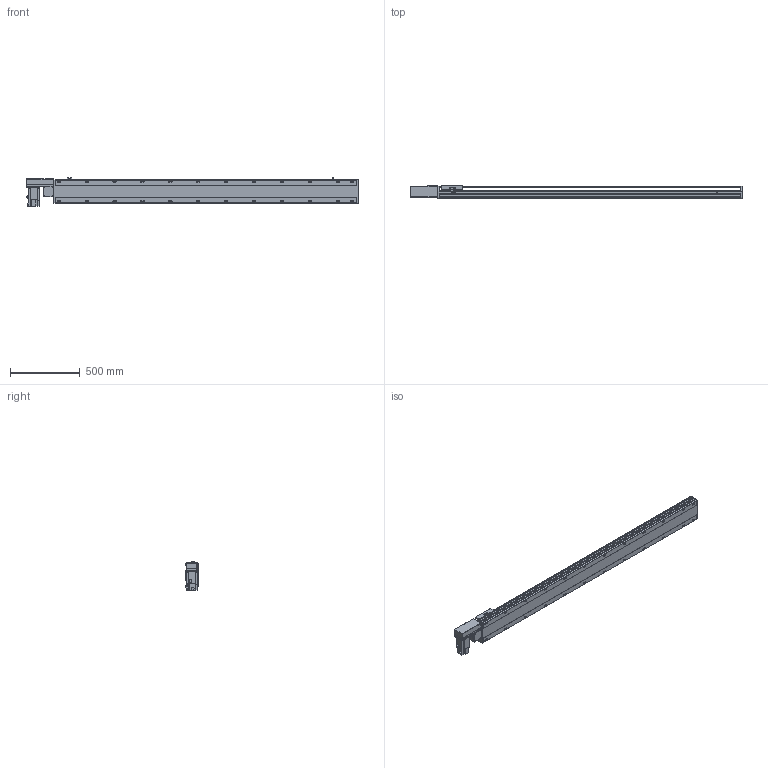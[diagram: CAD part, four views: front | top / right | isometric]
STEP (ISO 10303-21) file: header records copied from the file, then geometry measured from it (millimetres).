
FILE_DESCRIPTION(/* description */ ('STEP AP214'),/* implementation_level */ '2;1');
FILE_NAME(/* name */ 'PBS170-P40-S1900-R-T75-C1-N(0)',/* time_stamp */ '2022-06-07T09:31:19+02:00',/* author */ ('License CC BY-ND 4.0'),/* organization */ ('CADENAS'),/* preprocessor_version */ 'ST-DEVELOPER v18.102',/* originating_system */ 'PARTsolutions',/* authorisation */ ' ');
FILE_SCHEMA (('AUTOMOTIVE_DESIGN {1 0 10303 214 3 1 1}'));
Length unit declared in the file: millimetre
Products named in the file (7): PBS170-P40-S1900-R-T75-C1-N(0); PBS170_sensor; PBS170_plant; PBS170_sliser; T75-p1; PBS170T-R_motors; PBS170-S1900()_body
Assembly tree (8 placements, depth 2):
  PBS170-P40-S1900-R-T75-C1-N(0)
    PBS170_sensor  x3
    PBS170_plant
    PBS170_sliser
    T75-p1
    PBS170T-R_motors
    PBS170-S1900()_body
Bounding box: 2378 x 97 x 205.3 mm (x, y, z)
Volume: 17402112.5 mm3; surface area: 2214293.6 mm2
Topology: 8 solids, 8 shells, 1146 faces, 3035 edges, 1978 vertices
Faces by surface type: plane 711, cylinder 371, cone 54, sphere 8, torus 2
Full cylindrical faces by diameter (mm): 3.242 x4, 4 x2, 4.4 x4, 4.5 x6, 4.917 x4, 6 x9, 6.647 x32, 7 x2, 7.5 x4, 8 x8, 8.5 x24, 10 x4, 10.5 x24, 11 x2, 30 x2, 40 x1, 70 x1
Entity records: 32950 total; most frequent: CARTESIAN_POINT 6161, DIRECTION 5580, ORIENTED_EDGE 5268, EDGE_CURVE 2634, AXIS2_PLACEMENT_3D 1957, VERTEX_POINT 1826, LINE 1666, VECTOR 1666
